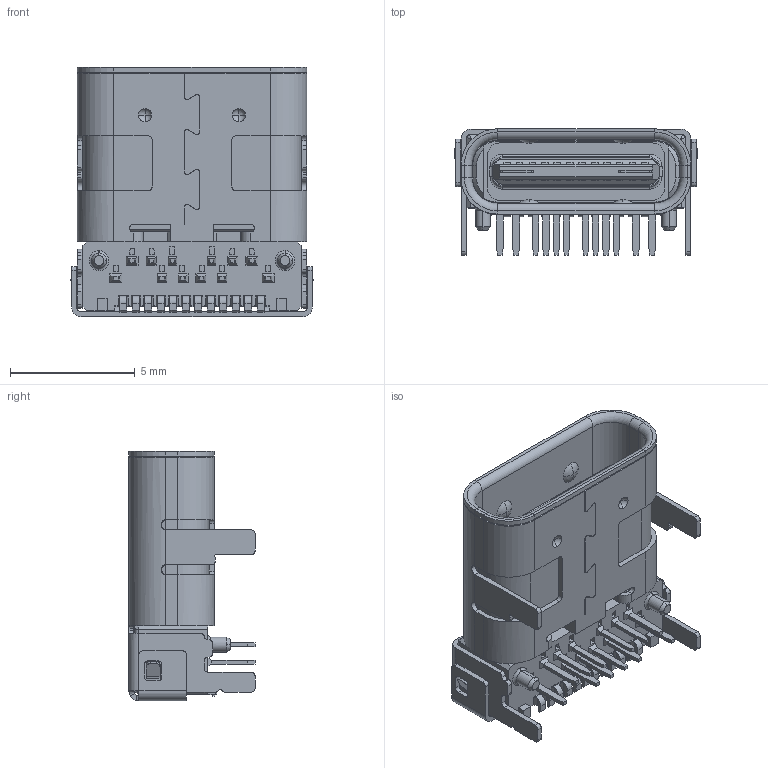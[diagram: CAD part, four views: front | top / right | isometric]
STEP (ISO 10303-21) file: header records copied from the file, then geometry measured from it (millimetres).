
FILE_DESCRIPTION((''),'2;1');
FILE_NAME('TYPE-C_1022405GR007','2018-08-09T',('Administrator'),(''),'PRO/ENGINEER BY PARAMETRIC TECHNOLOGY CORPORATION, 2010280','PRO/ENGINEER BY PARAMETRIC TECHNOLOGY CORPORATION, 2010280','');
FILE_SCHEMA(('CONFIG_CONTROL_DESIGN'));
Length unit declared in the file: millimetre
Products named in the file (1): TYPE-C_1022405GR007
Bounding box: 9.71 x 5.05 x 10 mm (x, y, z)
Volume: 174.8 mm3; surface area: 1057.2 mm2
Topology: 4 solids, 75 shells, 1839 faces, 4732 edges, 2992 vertices
Faces by surface type: plane 1393, cylinder 292, sphere 64, cone 44, torus 28, extrusion 16, bspline 2
Entity records: 55327 total; most frequent: CARTESIAN_POINT 10662, ORIENTED_EDGE 9328, DIRECTION 8954, EDGE_CURVE 4664, VECTOR 3732, LINE 3716, VERTEX_POINT 2992, AXIS2_PLACEMENT_3D 2611
